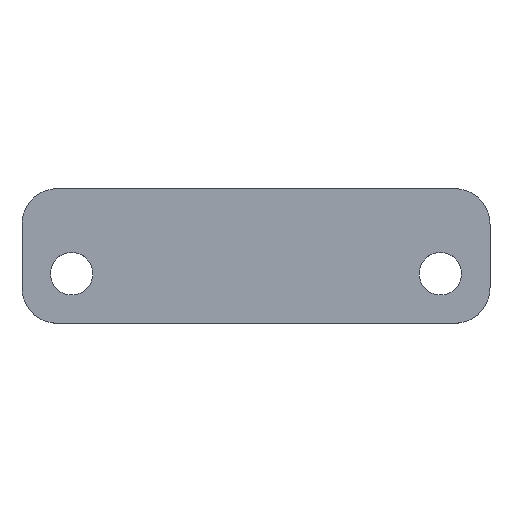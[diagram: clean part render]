
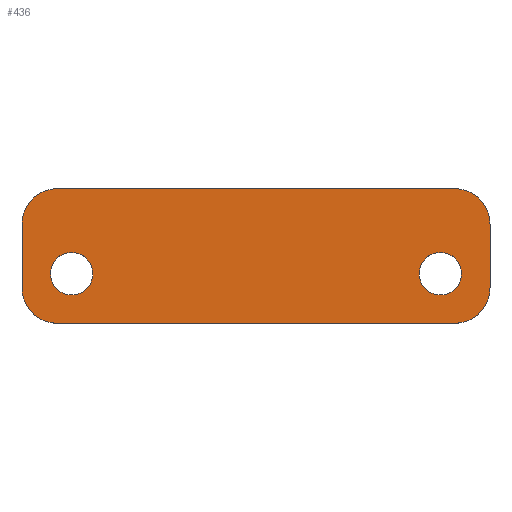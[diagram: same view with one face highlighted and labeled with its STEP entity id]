
A CAD part, top view. The second image highlights one B-rep face of the part: STEP entity #436.
In plain terms, the highlighted planar face has unit normal (0, 0, 1).
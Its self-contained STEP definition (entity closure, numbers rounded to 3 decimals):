
#6 = DIRECTION ( 'NONE',  ( 1., 0., 0. ) ) ;
#11 = DIRECTION ( 'NONE',  ( 1., 0., 0. ) ) ;
#18 = DIRECTION ( 'NONE',  ( 0., 0., 1. ) ) ;
#29 = VERTEX_POINT ( 'NONE', #494 ) ;
#30 = EDGE_CURVE ( 'NONE', #29, #29, #724, .T. ) ;
#44 = DIRECTION ( 'NONE',  ( 0., 0., 1. ) ) ;
#65 = CIRCLE ( 'NONE', #294, 5. ) ;
#80 = CARTESIAN_POINT ( 'NONE',  ( 28., -9.5, 0. ) ) ;
#90 = ORIENTED_EDGE ( 'NONE', *, *, #145, .T. ) ;
#94 = AXIS2_PLACEMENT_3D ( 'NONE', #778, #820, #195 ) ;
#96 = CARTESIAN_POINT ( 'NONE',  ( 33., 9.5, 0. ) ) ;
#105 = CIRCLE ( 'NONE', #382, 5. ) ;
#106 = ORIENTED_EDGE ( 'NONE', *, *, #224, .T. ) ;
#108 = CARTESIAN_POINT ( 'NONE',  ( 28., 9.5, 0. ) ) ;
#145 = EDGE_CURVE ( 'NONE', #198, #262, #522, .T. ) ;
#149 = VECTOR ( 'NONE', #365, 1000. ) ;
#151 = ORIENTED_EDGE ( 'NONE', *, *, #744, .T. ) ;
#152 = EDGE_CURVE ( 'NONE', #262, #558, #727, .T. ) ;
#175 = VERTEX_POINT ( 'NONE', #717 ) ;
#195 = DIRECTION ( 'NONE',  ( 1., 0., 0. ) ) ;
#198 = VERTEX_POINT ( 'NONE', #788 ) ;
#200 = ORIENTED_EDGE ( 'NONE', *, *, #488, .T. ) ;
#224 = EDGE_CURVE ( 'NONE', #266, #889, #300, .T. ) ;
#226 = CARTESIAN_POINT ( 'NONE',  ( 29., -2.5, 0. ) ) ;
#231 = DIRECTION ( 'NONE',  ( 0., 0., 1. ) ) ;
#244 = CARTESIAN_POINT ( 'NONE',  ( 28., -4.5, 0. ) ) ;
#262 = VERTEX_POINT ( 'NONE', #108 ) ;
#266 = VERTEX_POINT ( 'NONE', #298 ) ;
#287 = FACE_BOUND ( 'NONE', #480, .T. ) ;
#288 = CARTESIAN_POINT ( 'NONE',  ( -28., -4.5, 0. ) ) ;
#294 = AXIS2_PLACEMENT_3D ( 'NONE', #244, #44, #453 ) ;
#298 = CARTESIAN_POINT ( 'NONE',  ( -33., -4.5, 0. ) ) ;
#300 = CIRCLE ( 'NONE', #371, 5. ) ;
#305 = DIRECTION ( 'NONE',  ( 1., 0., 0. ) ) ;
#308 = VERTEX_POINT ( 'NONE', #758 ) ;
#312 = LINE ( 'NONE', #876, #736 ) ;
#352 = DIRECTION ( 'NONE',  ( 0., 0., 1. ) ) ;
#354 = DIRECTION ( 'NONE',  ( 0., 0., 1. ) ) ;
#365 = DIRECTION ( 'NONE',  ( -1., 0., 0. ) ) ;
#371 = AXIS2_PLACEMENT_3D ( 'NONE', #288, #352, #635 ) ;
#382 = AXIS2_PLACEMENT_3D ( 'NONE', #773, #354, #563 ) ;
#407 = VERTEX_POINT ( 'NONE', #80 ) ;
#436 = ADVANCED_FACE ( 'NONE', ( #644, #287, #567 ), #571, .T. ) ;
#446 = ORIENTED_EDGE ( 'NONE', *, *, #152, .T. ) ;
#453 = DIRECTION ( 'NONE',  ( 1., 0., 0. ) ) ;
#455 = ORIENTED_EDGE ( 'NONE', *, *, #734, .T. ) ;
#468 = AXIS2_PLACEMENT_3D ( 'NONE', #503, #18, #305 ) ;
#477 = LINE ( 'NONE', #904, #783 ) ;
#480 = EDGE_LOOP ( 'NONE', ( #894 ) ) ;
#488 = EDGE_CURVE ( 'NONE', #175, #266, #312, .T. ) ;
#494 = CARTESIAN_POINT ( 'NONE',  ( -23., -2.5, 0. ) ) ;
#503 = CARTESIAN_POINT ( 'NONE',  ( 26., -2.5, 0. ) ) ;
#504 = AXIS2_PLACEMENT_3D ( 'NONE', #714, #231, #505 ) ;
#505 = DIRECTION ( 'NONE',  ( 1., 0., 0. ) ) ;
#509 = CARTESIAN_POINT ( 'NONE',  ( 28., 4.5, 0. ) ) ;
#510 = CARTESIAN_POINT ( 'NONE',  ( 33., -9.5, 0. ) ) ;
#516 = LINE ( 'NONE', #510, #723 ) ;
#522 = CIRCLE ( 'NONE', #557, 5. ) ;
#540 = CARTESIAN_POINT ( 'NONE',  ( -28., 9.5, 0. ) ) ;
#557 = AXIS2_PLACEMENT_3D ( 'NONE', #509, #794, #11 ) ;
#558 = VERTEX_POINT ( 'NONE', #540 ) ;
#563 = DIRECTION ( 'NONE',  ( 1., 0., 0. ) ) ;
#564 = EDGE_CURVE ( 'NONE', #407, #308, #65, .T. ) ;
#567 = FACE_OUTER_BOUND ( 'NONE', #614, .T. ) ;
#571 = PLANE ( 'NONE',  #504 ) ;
#614 = EDGE_LOOP ( 'NONE', ( #816, #90, #446, #151, #200, #106, #455, #880 ) ) ;
#635 = DIRECTION ( 'NONE',  ( 1., 0., 0. ) ) ;
#644 = FACE_BOUND ( 'NONE', #811, .T. ) ;
#651 = DIRECTION ( 'NONE',  ( 0., -1., 0. ) ) ;
#714 = CARTESIAN_POINT ( 'NONE',  ( 0., 0., 0. ) ) ;
#717 = CARTESIAN_POINT ( 'NONE',  ( -33., 4.5, 0. ) ) ;
#723 = VECTOR ( 'NONE', #728, 1000. ) ;
#724 = CIRCLE ( 'NONE', #94, 3. ) ;
#727 = LINE ( 'NONE', #96, #149 ) ;
#728 = DIRECTION ( 'NONE',  ( 0., 1., 0. ) ) ;
#734 = EDGE_CURVE ( 'NONE', #889, #407, #477, .T. ) ;
#736 = VECTOR ( 'NONE', #651, 1000. ) ;
#744 = EDGE_CURVE ( 'NONE', #558, #175, #105, .T. ) ;
#758 = CARTESIAN_POINT ( 'NONE',  ( 33., -4.5, 0. ) ) ;
#773 = CARTESIAN_POINT ( 'NONE',  ( -28., 4.5, 0. ) ) ;
#778 = CARTESIAN_POINT ( 'NONE',  ( -26., -2.5, 0. ) ) ;
#783 = VECTOR ( 'NONE', #6, 1000. ) ;
#788 = CARTESIAN_POINT ( 'NONE',  ( 33., 4.5, 0. ) ) ;
#794 = DIRECTION ( 'NONE',  ( 0., 0., 1. ) ) ;
#808 = EDGE_CURVE ( 'NONE', #860, #860, #844, .T. ) ;
#811 = EDGE_LOOP ( 'NONE', ( #834 ) ) ;
#816 = ORIENTED_EDGE ( 'NONE', *, *, #893, .T. ) ;
#820 = DIRECTION ( 'NONE',  ( 0., 0., 1. ) ) ;
#834 = ORIENTED_EDGE ( 'NONE', *, *, #30, .F. ) ;
#844 = CIRCLE ( 'NONE', #468, 3. ) ;
#856 = CARTESIAN_POINT ( 'NONE',  ( -28., -9.5, 0. ) ) ;
#860 = VERTEX_POINT ( 'NONE', #226 ) ;
#876 = CARTESIAN_POINT ( 'NONE',  ( -33., 9.5, 0. ) ) ;
#880 = ORIENTED_EDGE ( 'NONE', *, *, #564, .T. ) ;
#889 = VERTEX_POINT ( 'NONE', #856 ) ;
#893 = EDGE_CURVE ( 'NONE', #308, #198, #516, .T. ) ;
#894 = ORIENTED_EDGE ( 'NONE', *, *, #808, .F. ) ;
#904 = CARTESIAN_POINT ( 'NONE',  ( -33., -9.5, 0. ) ) ;
